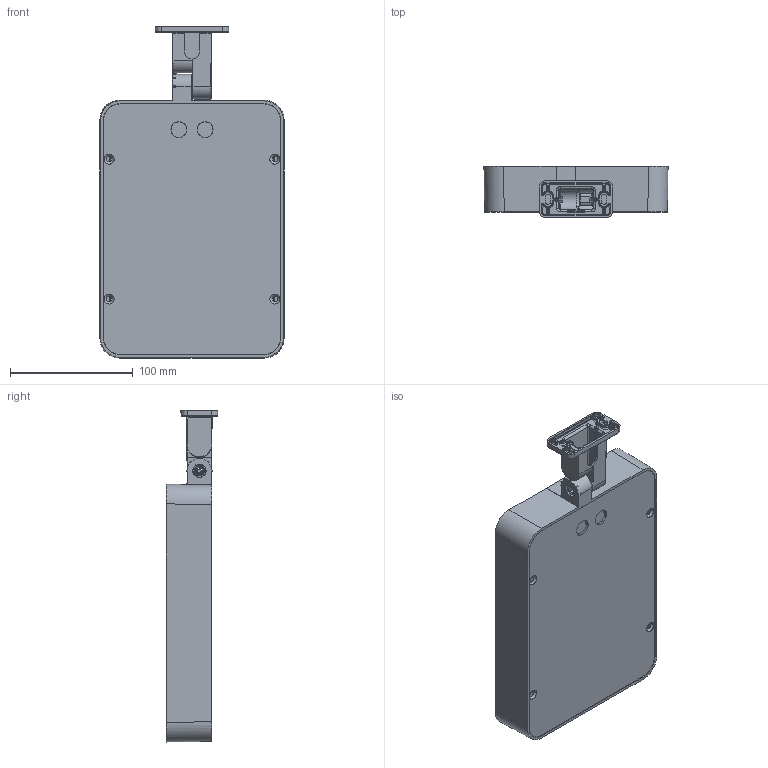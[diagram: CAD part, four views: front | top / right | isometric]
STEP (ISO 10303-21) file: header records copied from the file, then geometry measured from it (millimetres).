
FILE_DESCRIPTION((''),'2;1');
FILE_NAME('TAG210-COB-ASIMM-CITI_SW0001','2025-07-29T09:26:52',('Piccioli'),(''),'CREO PARAMETRIC BY PTC INC, 2025010','CREO PARAMETRIC BY PTC INC, 2025010','');
FILE_SCHEMA(('CONFIG_CONTROL_DESIGN'));
Products named in the file (1): TAG210-COB-ASIMM-CITI_SW0001
Bounding box: 150 x 42 x 270.5 mm (x, y, z)
Surface area: 223147.2 mm2 (no closed solid volume)
Topology: 0 solids, 68 shells, 622 faces, 2832 edges, 2246 vertices
Faces by surface type: plane 213, cylinder 165, cone 94, bspline 83, torus 67
Entity records: 45569 total; most frequent: CARTESIAN_POINT 24607, DIRECTION 4049, ORIENTED_EDGE 3744, EDGE_CURVE 2832, VERTEX_POINT 2246, AXIS2_PLACEMENT_3D 1390, VECTOR 1269, LINE 1269
